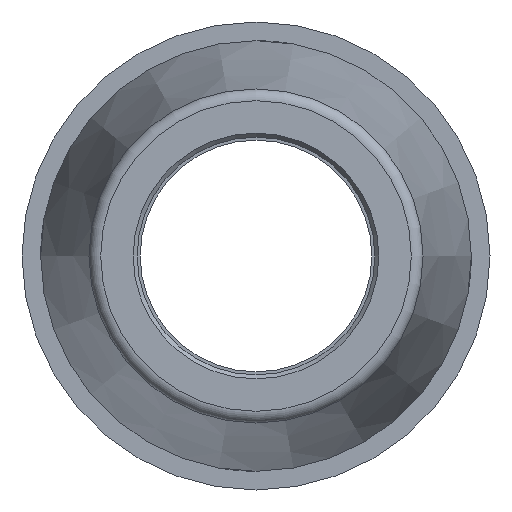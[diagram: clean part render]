
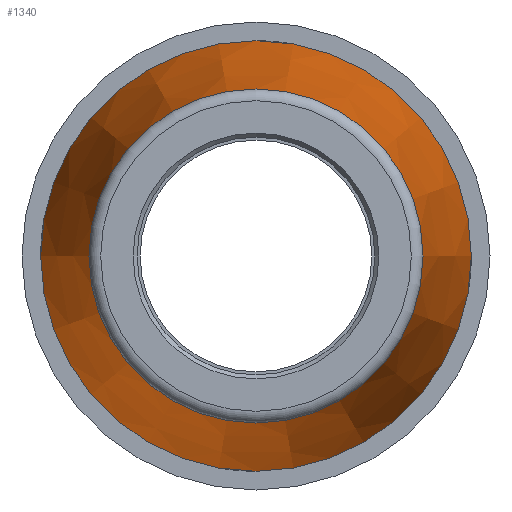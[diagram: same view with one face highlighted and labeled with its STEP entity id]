
A CAD part, left-side view. The second image highlights one B-rep face of the part: STEP entity #1340.
In plain terms, the highlighted conical face has half-angle 9.057 degrees and reference radius 41.08 mm.
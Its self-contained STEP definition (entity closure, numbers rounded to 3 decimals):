
#294=FACE_BOUND('',#418,.T.);
#324=FACE_OUTER_BOUND('',#417,.T.);
#417=EDGE_LOOP('',(#957));
#418=EDGE_LOOP('',(#958));
#527=CIRCLE('',#1436,36.042);
#528=CIRCLE('',#1438,46.46);
#623=VERTEX_POINT('',#2089);
#624=VERTEX_POINT('',#2092);
#759=EDGE_CURVE('',#623,#623,#527,.T.);
#760=EDGE_CURVE('',#624,#624,#528,.T.);
#957=ORIENTED_EDGE('',*,*,#760,.F.);
#958=ORIENTED_EDGE('',*,*,#759,.F.);
#1331=CONICAL_SURFACE('',#1437,41.08,9.057);
#1340=ADVANCED_FACE('',(#324,#294),#1331,.T.);
#1436=AXIS2_PLACEMENT_3D('',#2090,#1635,#1636);
#1437=AXIS2_PLACEMENT_3D('',#2091,#1637,#1638);
#1438=AXIS2_PLACEMENT_3D('',#2093,#1639,#1640);
#1635=DIRECTION('center_axis',(-1.,0.,0.));
#1636=DIRECTION('ref_axis',(0.,-1.,0.));
#1637=DIRECTION('center_axis',(1.,0.,0.));
#1638=DIRECTION('ref_axis',(0.,1.,0.));
#1639=DIRECTION('center_axis',(1.,0.,0.));
#1640=DIRECTION('ref_axis',(0.,0.,-1.));
#2089=CARTESIAN_POINT('',(-132.851,36.042,0.));
#2090=CARTESIAN_POINT('Origin',(-132.851,0.,0.));
#2091=CARTESIAN_POINT('Origin',(-101.25,0.,0.));
#2092=CARTESIAN_POINT('',(-67.5,46.46,0.));
#2093=CARTESIAN_POINT('Origin',(-67.5,0.,0.));
